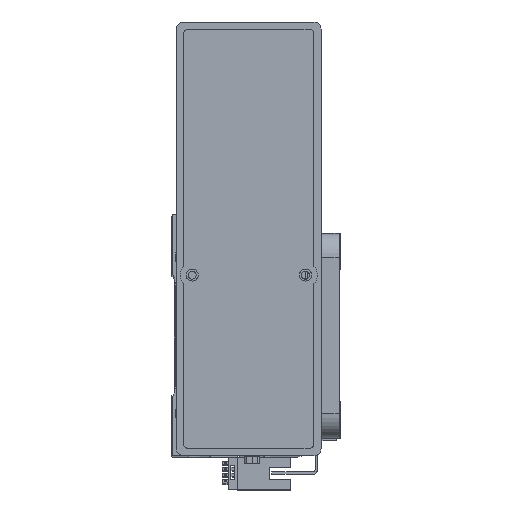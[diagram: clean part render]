
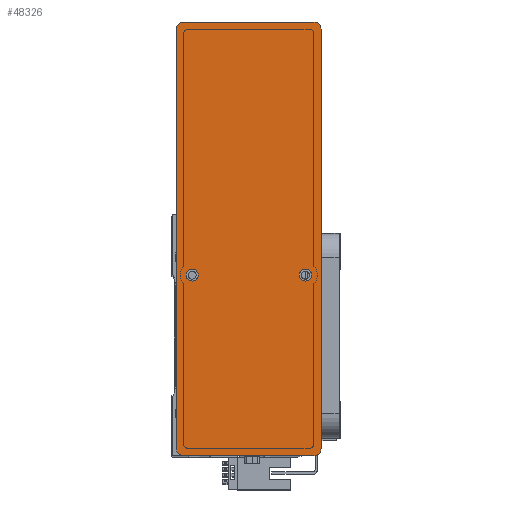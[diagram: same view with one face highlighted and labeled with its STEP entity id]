
A CAD part, top view. The second image highlights one B-rep face of the part: STEP entity #48326.
In plain terms, the highlighted planar face has unit normal (0, 0, 1) as drawn and (0, 0, -1) by its records, which use the part's own axes.
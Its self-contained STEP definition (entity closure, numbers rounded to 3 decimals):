
#539 = ORIENTED_EDGE ( 'NONE', *, *, #24108, .F. ) ;
#835 = CARTESIAN_POINT ( 'NONE',  ( 87., -30., 0. ) ) ;
#1235 = EDGE_CURVE ( 'NONE', #17822, #11225, #12198, .T. ) ;
#1713 = DIRECTION ( 'NONE',  ( 0., 0., -1. ) ) ;
#2056 = CARTESIAN_POINT ( 'NONE',  ( -87., -30., 0. ) ) ;
#2623 = DIRECTION ( 'NONE',  ( -1., 0., 0. ) ) ;
#3037 = AXIS2_PLACEMENT_3D ( 'NONE', #17543, #47129, #21829 ) ;
#3507 = CARTESIAN_POINT ( 'NONE',  ( 87., 30., 0. ) ) ;
#3520 = VERTEX_POINT ( 'NONE', #22512 ) ;
#3657 = VERTEX_POINT ( 'NONE', #6783 ) ;
#3883 = VERTEX_POINT ( 'NONE', #8223 ) ;
#4866 = DIRECTION ( 'NONE',  ( 0., 0., -1. ) ) ;
#5449 = DIRECTION ( 'NONE',  ( -1., 0., 0. ) ) ;
#5784 = EDGE_CURVE ( 'NONE', #17822, #48846, #25159, .T. ) ;
#6136 = DIRECTION ( 'NONE',  ( 0., -1., 0. ) ) ;
#6163 = AXIS2_PLACEMENT_3D ( 'NONE', #9773, #39343, #14023 ) ;
#6783 = CARTESIAN_POINT ( 'NONE',  ( -17.5, -23.5, 0. ) ) ;
#7298 = AXIS2_PLACEMENT_3D ( 'NONE', #30221, #4866, #34457 ) ;
#8223 = CARTESIAN_POINT ( 'NONE',  ( -87., 30., 0. ) ) ;
#8338 = EDGE_CURVE ( 'NONE', #42734, #11246, #35948, .T. ) ;
#8534 = ORIENTED_EDGE ( 'NONE', *, *, #5784, .F. ) ;
#8787 = EDGE_CURVE ( 'NONE', #36364, #3520, #17308, .T. ) ;
#8886 = FACE_BOUND ( 'NONE', #41158, .T. ) ;
#8946 = AXIS2_PLACEMENT_3D ( 'NONE', #27027, #1713, #31263 ) ;
#9773 = CARTESIAN_POINT ( 'NONE',  ( -87., -27., 0. ) ) ;
#9837 = ORIENTED_EDGE ( 'NONE', *, *, #52861, .F. ) ;
#9918 = VECTOR ( 'NONE', #5449, 1000. ) ;
#10190 = CIRCLE ( 'NONE', #46196, 3. ) ;
#11225 = VERTEX_POINT ( 'NONE', #835 ) ;
#11246 = VERTEX_POINT ( 'NONE', #17831 ) ;
#12060 = AXIS2_PLACEMENT_3D ( 'NONE', #34849, #51898, #26549 ) ;
#12198 = CIRCLE ( 'NONE', #27650, 3. ) ;
#12525 = CIRCLE ( 'NONE', #3037, 2.5 ) ;
#13904 = VECTOR ( 'NONE', #27963, 1000. ) ;
#14023 = DIRECTION ( 'NONE',  ( 1., 0., 0. ) ) ;
#14729 = EDGE_CURVE ( 'NONE', #19286, #3520, #14819, .T. ) ;
#14819 = LINE ( 'NONE', #31469, #35981 ) ;
#16486 = EDGE_CURVE ( 'NONE', #11246, #42734, #12525, .T. ) ;
#16642 = AXIS2_PLACEMENT_3D ( 'NONE', #48535, #23227, #52814 ) ;
#16884 = ORIENTED_EDGE ( 'NONE', *, *, #8787, .T. ) ;
#17308 = CIRCLE ( 'NONE', #6163, 3. ) ;
#17543 = CARTESIAN_POINT ( 'NONE',  ( -15., 23.5, 0. ) ) ;
#17822 = VERTEX_POINT ( 'NONE', #23040 ) ;
#17831 = CARTESIAN_POINT ( 'NONE',  ( -17.5, 23.5, 0. ) ) ;
#18658 = CARTESIAN_POINT ( 'NONE',  ( 87., 27., 0. ) ) ;
#18669 = VERTEX_POINT ( 'NONE', #24601 ) ;
#19286 = VERTEX_POINT ( 'NONE', #21958 ) ;
#19449 = CARTESIAN_POINT ( 'NONE',  ( 90., -30., 0. ) ) ;
#20071 = ORIENTED_EDGE ( 'NONE', *, *, #44579, .F. ) ;
#21399 = ORIENTED_EDGE ( 'NONE', *, *, #31994, .T. ) ;
#21421 = ORIENTED_EDGE ( 'NONE', *, *, #8338, .F. ) ;
#21422 = CARTESIAN_POINT ( 'NONE',  ( 87., -27., 0. ) ) ;
#21829 = DIRECTION ( 'NONE',  ( -1., 0., 0. ) ) ;
#21958 = CARTESIAN_POINT ( 'NONE',  ( -90., 27., 0. ) ) ;
#22512 = CARTESIAN_POINT ( 'NONE',  ( -90., -27., 0. ) ) ;
#22916 = DIRECTION ( 'NONE',  ( 1., 0., 0. ) ) ;
#22975 = ORIENTED_EDGE ( 'NONE', *, *, #14729, .F. ) ;
#23040 = CARTESIAN_POINT ( 'NONE',  ( 90., -27., 0. ) ) ;
#23227 = DIRECTION ( 'NONE',  ( 0., 0., -1. ) ) ;
#24108 = EDGE_CURVE ( 'NONE', #36364, #11225, #41290, .T. ) ;
#24601 = CARTESIAN_POINT ( 'NONE',  ( -12.5, -23.5, 0. ) ) ;
#25159 = LINE ( 'NONE', #19449, #13904 ) ;
#25660 = DIRECTION ( 'NONE',  ( 1., 0., 0. ) ) ;
#26537 = CARTESIAN_POINT ( 'NONE',  ( 90., 30., 0. ) ) ;
#26549 = DIRECTION ( 'NONE',  ( 1., 0., 0. ) ) ;
#27027 = CARTESIAN_POINT ( 'NONE',  ( -15., -23.5, 0. ) ) ;
#27650 = AXIS2_PLACEMENT_3D ( 'NONE', #21422, #51021, #25660 ) ;
#27958 = DIRECTION ( 'NONE',  ( 0., 0., -1. ) ) ;
#27963 = DIRECTION ( 'NONE',  ( 0., 1., 0. ) ) ;
#28720 = FACE_BOUND ( 'NONE', #29198, .T. ) ;
#29198 = EDGE_LOOP ( 'NONE', ( #37845, #21421 ) ) ;
#29392 = CIRCLE ( 'NONE', #8946, 2.5 ) ;
#29422 = VERTEX_POINT ( 'NONE', #3507 ) ;
#30221 = CARTESIAN_POINT ( 'NONE',  ( -15., -23.5, 0. ) ) ;
#31263 = DIRECTION ( 'NONE',  ( -1., 0., 0. ) ) ;
#31469 = CARTESIAN_POINT ( 'NONE',  ( -90., -30., 0. ) ) ;
#31994 = EDGE_CURVE ( 'NONE', #19286, #3883, #42040, .T. ) ;
#33962 = EDGE_CURVE ( 'NONE', #29422, #3883, #43657, .T. ) ;
#34457 = DIRECTION ( 'NONE',  ( -1., 0., 0. ) ) ;
#34512 = CARTESIAN_POINT ( 'NONE',  ( -12.5, 23.5, 0. ) ) ;
#34849 = CARTESIAN_POINT ( 'NONE',  ( 0., 0., 0. ) ) ;
#35948 = CIRCLE ( 'NONE', #46148, 2.5 ) ;
#35981 = VECTOR ( 'NONE', #6136, 1000. ) ;
#36364 = VERTEX_POINT ( 'NONE', #2056 ) ;
#37845 = ORIENTED_EDGE ( 'NONE', *, *, #16486, .F. ) ;
#39343 = DIRECTION ( 'NONE',  ( 0., 0., -1. ) ) ;
#39505 = EDGE_CURVE ( 'NONE', #29422, #48846, #10190, .T. ) ;
#41158 = EDGE_LOOP ( 'NONE', ( #20071, #9837 ) ) ;
#41287 = FACE_OUTER_BOUND ( 'NONE', #47036, .T. ) ;
#41290 = LINE ( 'NONE', #48730, #51240 ) ;
#42040 = CIRCLE ( 'NONE', #16642, 3. ) ;
#42692 = CARTESIAN_POINT ( 'NONE',  ( 90., 27., 0. ) ) ;
#42734 = VERTEX_POINT ( 'NONE', #34512 ) ;
#43351 = PLANE ( 'NONE',  #12060 ) ;
#43657 = LINE ( 'NONE', #26537, #9918 ) ;
#44042 = ORIENTED_EDGE ( 'NONE', *, *, #39505, .T. ) ;
#44579 = EDGE_CURVE ( 'NONE', #3657, #18669, #29392, .T. ) ;
#46148 = AXIS2_PLACEMENT_3D ( 'NONE', #53300, #27958, #2623 ) ;
#46196 = AXIS2_PLACEMENT_3D ( 'NONE', #18658, #48224, #22916 ) ;
#46872 = CIRCLE ( 'NONE', #7298, 2.5 ) ;
#47036 = EDGE_LOOP ( 'NONE', ( #8534, #47567, #539, #16884, #22975, #21399, #48645, #44042 ) ) ;
#47129 = DIRECTION ( 'NONE',  ( 0., 0., -1. ) ) ;
#47567 = ORIENTED_EDGE ( 'NONE', *, *, #1235, .T. ) ;
#48224 = DIRECTION ( 'NONE',  ( 0., 0., -1. ) ) ;
#48326 = ADVANCED_FACE ( 'NONE', ( #28720, #8886, #41287 ), #43351, .F. ) ;
#48535 = CARTESIAN_POINT ( 'NONE',  ( -87., 27., 0. ) ) ;
#48645 = ORIENTED_EDGE ( 'NONE', *, *, #33962, .F. ) ;
#48730 = CARTESIAN_POINT ( 'NONE',  ( 90., -30., 0. ) ) ;
#48846 = VERTEX_POINT ( 'NONE', #42692 ) ;
#51021 = DIRECTION ( 'NONE',  ( 0., 0., -1. ) ) ;
#51240 = VECTOR ( 'NONE', #52993, 1000. ) ;
#51898 = DIRECTION ( 'NONE',  ( 0., 0., 1. ) ) ;
#52814 = DIRECTION ( 'NONE',  ( 1., 0., 0. ) ) ;
#52861 = EDGE_CURVE ( 'NONE', #18669, #3657, #46872, .T. ) ;
#52993 = DIRECTION ( 'NONE',  ( 1., 0., 0. ) ) ;
#53300 = CARTESIAN_POINT ( 'NONE',  ( -15., 23.5, 0. ) ) ;
